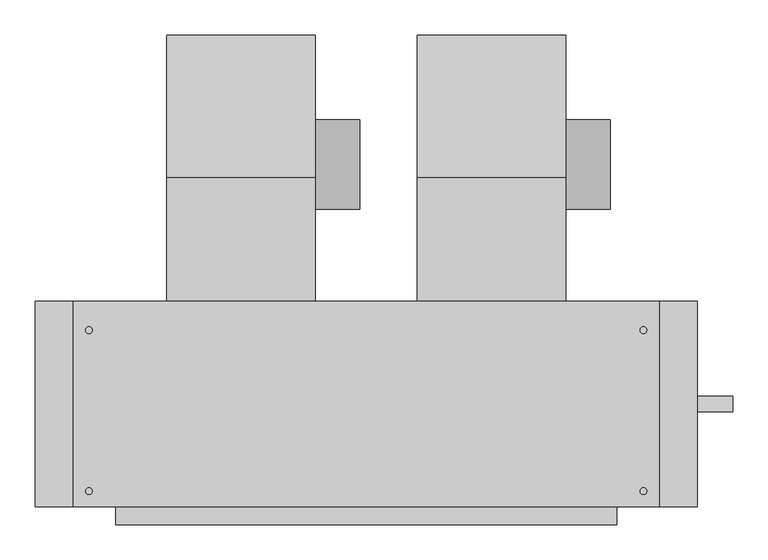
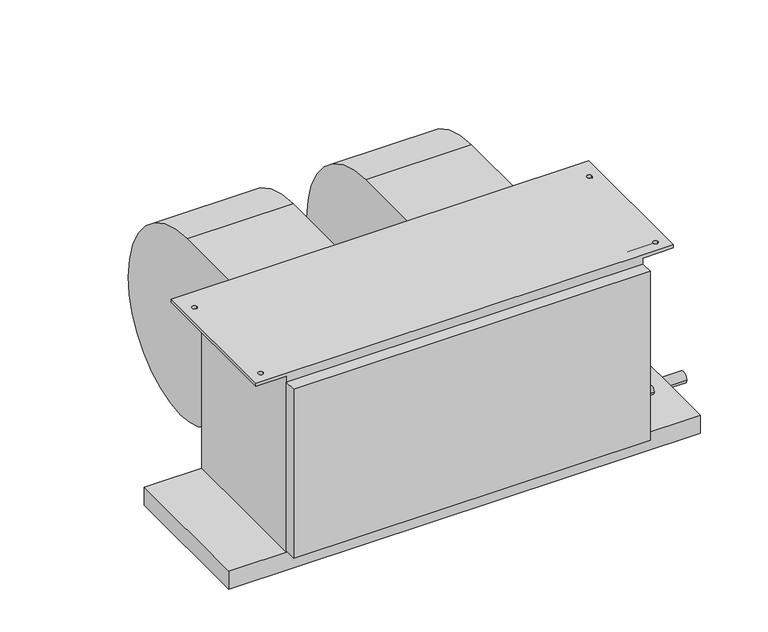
"""IFC4 building model written with IfcOpenShell, lengths in millimetres: proxy geometry, Concealed_High_Capacity_Horizontal_Fan_Coil_Unit_-_42DAA_-_CARRIER_-_4-Pipe_RH_2022 : Size 12 - 277v/60Hz/1Ph - 6/2 Coil."""

from ifc_helpers import new_model, si_unit, point, frame, frame_2d, origin, place, context, project, spatial, polyline, circle_curve, trimmed, segment, composite_curve, outline, extrude, source, transform, mapped, element, save
from ifc_brep_helpers import plane_surface, cylinder_surface, revolved_surface, advanced_brep


def mechanical_equipment_8c316060(model_context):
    return source(origin(), model_context, "Body", "SolidModel", [
        extrude(outline(composite_curve([segment(trimmed(circle_curve(frame_2d((117.8757598, -213.2397468)), 63.5), [point((181.3757598, -213.2397468))], [point((54.3757598, -213.2397468))], False, "CARTESIAN"), True, "CONTINUOUS"), segment(trimmed(circle_curve(frame_2d((117.8757598, -213.2397468)), 63.5), [point((54.3757598, -213.2397468))], [point((181.3757598, -213.2397468))], False, "CARTESIAN"), True, "CONTINUOUS")], self_intersect=False)), frame((207.137, 0.0, 0.0), z_axis=(1.0, 0.0, 0.0), x_axis=(0.0, 1.0, 0.0)), (0.0, 0.0, 1.0), 63.5),
        advanced_brep(
        [(-3.937, 301.3905957, -228.379602), (-3.937, 120.4976, -409.99664), (-3.937, -35.0266, -283.45638), (-3.937, -76.2, -283.45638), (-3.937, -76.2, -25.4), (-3.937, 98.8830093, -25.4), (207.137, 301.3905957, -228.379602), (207.137, 98.8830093, -25.4), (207.137, -76.2, -25.4), (207.137, -76.2, -283.45638), (207.137, -35.0266, -283.45638), (207.137, 120.497599, -409.9957839)],
        [
            (0, 1, circle_curve(frame((-3.937, 120.31726, -228.92258), z_axis=(-1.0, 0.0, 0.0), x_axis=(0.0, -1.0, 0.0)), 181.0741498)),
            (1, 2, circle_curve(frame((-3.937, 120.31726, -251.37364), z_axis=(-1.0, 0.0, 0.0), x_axis=(0.0, -1.0, 0.0)), 158.6222464)),
            (2, 3),
            (3, 4),
            (4, 5),
            (5, 0, circle_curve(frame((-3.937, 97.8662, -228.92258), z_axis=(-1.0, 0.0, 0.0), x_axis=(0.0, -1.0, 0.0)), 203.52512)),
            (6, 7, circle_curve(frame((207.137, 97.8662, -228.92258), z_axis=(1.0, 0.0, 0.0), x_axis=(0.0, -1.0, 0.0)), 203.52512)),
            (7, 8),
            (8, 9),
            (9, 10),
            (10, 11, circle_curve(frame((207.137, 120.31726, -251.37364), z_axis=(1.0, 0.0, 0.0), x_axis=(0.0, -1.0, 0.0)), 158.6222464)),
            (11, 6, circle_curve(frame((207.137, 120.31726, -228.92258), z_axis=(1.0, 0.0, 0.0), x_axis=(0.0, -1.0, 0.0)), 181.0741498)),
            (0, 6),
            (11, 1),
            (10, 2),
            (9, 3),
            (8, 4),
            (7, 5),
        ],
        [
            plane_surface(frame((-3.937, -60.7568898, -228.92258), z_axis=(-1.0, 0.0, 0.0), x_axis=(0.0, 0.0, 1.0))),
            plane_surface(frame((207.137, -60.7568898, -228.92258), z_axis=(1.0, 0.0, 0.0), x_axis=(0.0, 0.0, -1.0))),
            cylinder_surface(frame((207.137, 120.31726, -228.92258), z_axis=(-1.0, 0.0, 0.0), x_axis=(0.0, -1.0, 0.0)), 181.0741498),
            cylinder_surface(frame((207.137, 120.31726, -251.37364), z_axis=(-1.0, 0.0, 0.0), x_axis=(0.0, -1.0, 0.0)), 158.6222464),
            plane_surface(frame((-3.937, -35.0266, -283.45638), z_axis=(0.0, 0.0, -1.0), x_axis=(1.0, 0.0, 0.0))),
            plane_surface(frame((-3.937, -76.2, -283.45638), z_axis=(0.0, -1.0, 0.0), x_axis=(1.0, 0.0, 0.0))),
            plane_surface(frame((-3.937, -76.2, -25.4), z_axis=(0.0, 0.0, 1.0), x_axis=(1.0, 0.0, 0.0))),
            cylinder_surface(frame((207.137, 97.8662, -228.92258), z_axis=(-1.0, 0.0, 0.0), x_axis=(0.0, -1.0, 0.0)), 203.52512),
        ],
        [
            (0, [[1, 2, 3, 4, 5, 6]]),
            (1, [[7, 8, 9, 10, 11, 12]]),
            (2, [[-1, 13, -12, 14]]),
            (3, [[-2, -14, -11, 15]]),
            (4, [[-3, -15, -10, 16]]),
            (5, [[-4, -16, -9, 17]]),
            (6, [[-5, -17, -8, 18]]),
            (7, [[-6, -18, -7, -13]]),
        ],
    ),
        extrude(outline(composite_curve([segment(trimmed(circle_curve(frame_2d((117.8757598, -213.2397468)), 63.5), [point((181.3757598, -213.2397468))], [point((54.3757598, -213.2397468))], False, "CARTESIAN"), True, "CONTINUOUS"), segment(trimmed(circle_curve(frame_2d((117.8757598, -213.2397468)), 63.5), [point((54.3757598, -213.2397468))], [point((181.3757598, -213.2397468))], False, "CARTESIAN"), True, "CONTINUOUS")], self_intersect=False)), frame((562.737, 0.0, 0.0), z_axis=(1.0, 0.0, 0.0), x_axis=(0.0, 1.0, 0.0)), (0.0, 0.0, 1.0), 63.5),
        advanced_brep(
        [(351.663, 301.3905957, -228.379602), (351.663, 120.4976, -409.99664), (351.663, -35.0266, -283.45638), (351.663, -76.2, -283.45638), (351.663, -76.2, -25.4), (351.663, 98.8830093, -25.4), (562.737, 301.3905957, -228.379602), (562.737, 98.8830093, -25.4), (562.737, -76.2, -25.4), (562.737, -76.2, -283.45638), (562.737, -35.0266, -283.45638), (562.737, 120.497599, -409.9957839)],
        [
            (0, 1, circle_curve(frame((351.663, 120.31726, -228.92258), z_axis=(-1.0, 0.0, 0.0), x_axis=(0.0, -1.0, 0.0)), 181.0741498)),
            (1, 2, circle_curve(frame((351.663, 120.31726, -251.37364), z_axis=(-1.0, 0.0, 0.0), x_axis=(0.0, -1.0, 0.0)), 158.6222464)),
            (2, 3),
            (3, 4),
            (4, 5),
            (5, 0, circle_curve(frame((351.663, 97.8662, -228.92258), z_axis=(-1.0, 0.0, 0.0), x_axis=(0.0, -1.0, 0.0)), 203.52512)),
            (6, 7, circle_curve(frame((562.737, 97.8662, -228.92258), z_axis=(1.0, 0.0, 0.0), x_axis=(0.0, -1.0, 0.0)), 203.52512)),
            (7, 8),
            (8, 9),
            (9, 10),
            (10, 11, circle_curve(frame((562.737, 120.31726, -251.37364), z_axis=(1.0, 0.0, 0.0), x_axis=(0.0, -1.0, 0.0)), 158.6222464)),
            (11, 6, circle_curve(frame((562.737, 120.31726, -228.92258), z_axis=(1.0, 0.0, 0.0), x_axis=(0.0, -1.0, 0.0)), 181.0741498)),
            (0, 6),
            (11, 1),
            (10, 2),
            (9, 3),
            (8, 4),
            (7, 5),
        ],
        [
            plane_surface(frame((351.663, -60.7568898, -228.92258), z_axis=(-1.0, 0.0, 0.0), x_axis=(0.0, 0.0, 1.0))),
            plane_surface(frame((562.737, -60.7568898, -228.92258), z_axis=(1.0, 0.0, 0.0), x_axis=(0.0, 0.0, -1.0))),
            cylinder_surface(frame((562.737, 120.31726, -228.92258), z_axis=(-1.0, 0.0, 0.0), x_axis=(0.0, -1.0, 0.0)), 181.0741498),
            cylinder_surface(frame((562.737, 120.31726, -251.37364), z_axis=(-1.0, 0.0, 0.0), x_axis=(0.0, -1.0, 0.0)), 158.6222464),
            plane_surface(frame((351.663, -35.0266, -283.45638), z_axis=(0.0, 0.0, -1.0), x_axis=(1.0, 0.0, 0.0))),
            plane_surface(frame((351.663, -76.2, -283.45638), z_axis=(0.0, -1.0, 0.0), x_axis=(1.0, 0.0, 0.0))),
            plane_surface(frame((351.663, -76.2, -25.4), z_axis=(0.0, 0.0, 1.0), x_axis=(1.0, 0.0, 0.0))),
            cylinder_surface(frame((562.737, 97.8662, -228.92258), z_axis=(-1.0, 0.0, 0.0), x_axis=(0.0, -1.0, 0.0)), 203.52512),
        ],
        [
            (0, [[1, 2, 3, 4, 5, 6]]),
            (1, [[7, 8, 9, 10, 11, 12]]),
            (2, [[-1, 13, -12, 14]]),
            (3, [[-2, -14, -11, 15]]),
            (4, [[-3, -15, -10, 16]]),
            (5, [[-4, -16, -9, 17]]),
            (6, [[-5, -17, -8, 18]]),
            (7, [[-6, -18, -7, -13]]),
        ],
    ),
        extrude(outline(polyline([(749.3, -76.2), (749.3, -368.3), (-190.5, -368.3), (-190.5, -76.2), (749.3, -76.2)])), frame((0.0, 0.0, -415.925), z_axis=(0.0, 0.0, 1.0), x_axis=(1.0, 0.0, 0.0)), (0.0, 0.0, 1.0), 38.1),
        extrude(outline(polyline([(635.0, -393.7), (-76.2, -393.7), (-76.2, -368.3), (635.0, -368.3), (635.0, -393.7)])), frame((0.0, 0.0, -374.65), z_axis=(0.0, 0.0, 1.0), x_axis=(1.0, 0.0, 0.0)), (0.0, 0.0, 1.0), 355.6),
        extrude(outline(composite_curve([segment(trimmed(circle_curve(frame_2d((-222.25, -403.225)), 11.1125), [point((-233.3625, -403.225))], [point((-211.1375, -403.225))], False, "CARTESIAN"), True, "CONTINUOUS"), segment(trimmed(circle_curve(frame_2d((-222.25, -403.225)), 11.1125), [point((-211.1375, -403.225))], [point((-233.3625, -403.225))], False, "CARTESIAN"), True, "CONTINUOUS")], self_intersect=False)), frame((749.3, 0.0, 0.0), z_axis=(1.0, 0.0, 0.0), x_axis=(0.0, 1.0, 0.0)), (0.0, 0.0, 1.0), 50.8),
        extrude(outline(composite_curve([segment(trimmed(circle_curve(frame_2d((-187.325, -122.2375)), 11.1125), [point((-176.2125, -122.2375))], [point((-198.4375, -122.2375))], False, "CARTESIAN"), True, "CONTINUOUS"), segment(trimmed(circle_curve(frame_2d((-187.325, -122.2375)), 11.1125), [point((-198.4375, -122.2375))], [point((-176.2125, -122.2375))], False, "CARTESIAN"), True, "CONTINUOUS")], self_intersect=False)), frame((635.0, 0.0, 0.0), z_axis=(1.0, 0.0, 0.0), x_axis=(0.0, 1.0, 0.0)), (0.0, 0.0, 1.0), 50.8),
        extrude(outline(composite_curve([segment(trimmed(circle_curve(frame_2d((-269.875, -265.1125)), 11.1125), [point((-258.7625, -265.1125))], [point((-280.9875, -265.1125))], False, "CARTESIAN"), True, "CONTINUOUS"), segment(trimmed(circle_curve(frame_2d((-269.875, -265.1125)), 11.1125), [point((-280.9875, -265.1125))], [point((-258.7625, -265.1125))], False, "CARTESIAN"), True, "CONTINUOUS")], self_intersect=False)), frame((635.0, 0.0, 0.0), z_axis=(1.0, 0.0, 0.0), x_axis=(0.0, 1.0, 0.0)), (0.0, 0.0, 1.0), 50.8),
        extrude(outline(composite_curve([segment(trimmed(circle_curve(frame_2d((-311.15, -19.05)), 7.9375), [point((-303.2125, -19.05))], [point((-319.0875, -19.05))], False, "CARTESIAN"), True, "CONTINUOUS"), segment(trimmed(circle_curve(frame_2d((-311.15, -19.05)), 7.9375), [point((-319.0875, -19.05))], [point((-303.2125, -19.05))], False, "CARTESIAN"), True, "CONTINUOUS")], self_intersect=False)), frame((635.0, 0.0, 0.0), z_axis=(1.0, 0.0, 0.0), x_axis=(0.0, 1.0, 0.0)), (0.0, 0.0, 1.0), 50.8),
        extrude(outline(composite_curve([segment(trimmed(circle_curve(frame_2d((-311.15, -336.55)), 7.9375), [point((-303.2125, -336.55))], [point((-319.0875, -336.55))], False, "CARTESIAN"), True, "CONTINUOUS"), segment(trimmed(circle_curve(frame_2d((-311.15, -336.55)), 7.9375), [point((-319.0875, -336.55))], [point((-303.2125, -336.55))], False, "CARTESIAN"), True, "CONTINUOUS")], self_intersect=False)), frame((635.0, 0.0, 0.0), z_axis=(1.0, 0.0, 0.0), x_axis=(0.0, 1.0, 0.0)), (0.0, 0.0, 1.0), 50.8),
        advanced_brep(
        [(635.0, -76.2, -377.825), (635.0, -368.3, -377.825), (-76.2, -368.3, -377.825), (-76.2, -76.2, -377.825), (-76.2, -368.3, -6.35), (-76.2, -76.2, -6.35), (635.0, -76.2, -6.35), (635.0, -368.3, -6.35), (-136.525, -76.2, 0.0), (-136.525, -368.3, 0.0), (695.325, -368.3, 0.0), (695.325, -76.2, 0.0), (-109.5375, -117.475, 0.0), (-119.0625, -117.475, 0.0), (-109.5375, -346.075, 0.0), (-119.0625, -346.075, 0.0), (677.8625, -117.475, 0.0), (668.3375, -117.475, 0.0), (677.8625, -346.075, 0.0), (668.3375, -346.075, 0.0), (-136.525, -76.2, -6.35), (-136.525, -368.3, -6.35), (-119.0625, -117.475, -6.35), (-109.5375, -117.475, -6.35), (-119.0625, -346.075, -6.35), (-109.5375, -346.075, -6.35), (695.325, -76.2, -6.35), (695.325, -368.3, -6.35), (668.3375, -117.475, -6.35), (677.8625, -117.475, -6.35), (668.3375, -346.075, -6.35), (677.8625, -346.075, -6.35)],
        [
            (0, 1),
            (1, 2),
            (2, 3),
            (3, 0),
            (2, 4),
            (4, 5),
            (5, 3),
            (0, 6),
            (6, 7),
            (7, 1),
            (8, 9),
            (9, 10),
            (10, 11),
            (11, 8),
            (12, 13, circle_curve(frame((-114.3, -117.475, 0.0), z_axis=(0.0, 0.0, -1.0), x_axis=(1.0, 0.0, 0.0)), 4.7625)),
            (13, 12, circle_curve(frame((-114.3, -117.475, 0.0), z_axis=(0.0, 0.0, -1.0), x_axis=(1.0, 0.0, 0.0)), 4.7625)),
            (14, 15, circle_curve(frame((-114.3, -346.075, 0.0), z_axis=(0.0, 0.0, -1.0), x_axis=(1.0, 0.0, 0.0)), 4.7625)),
            (15, 14, circle_curve(frame((-114.3, -346.075, 0.0), z_axis=(0.0, 0.0, -1.0), x_axis=(1.0, 0.0, 0.0)), 4.7625)),
            (16, 17, circle_curve(frame((673.1, -117.475, 0.0), z_axis=(0.0, 0.0, -1.0), x_axis=(1.0, 0.0, 0.0)), 4.7625)),
            (17, 16, circle_curve(frame((673.1, -117.475, 0.0), z_axis=(0.0, 0.0, -1.0), x_axis=(1.0, 0.0, 0.0)), 4.7625)),
            (18, 19, circle_curve(frame((673.1, -346.075, 0.0), z_axis=(0.0, 0.0, -1.0), x_axis=(1.0, 0.0, 0.0)), 4.7625)),
            (19, 18, circle_curve(frame((673.1, -346.075, 0.0), z_axis=(0.0, 0.0, -1.0), x_axis=(1.0, 0.0, 0.0)), 4.7625)),
            (20, 5),
            (4, 21),
            (21, 20),
            (22, 23, circle_curve(frame((-114.3, -117.475, -6.35), z_axis=(0.0, 0.0, 1.0), x_axis=(1.0, 0.0, 0.0)), 4.7625)),
            (23, 22, circle_curve(frame((-114.3, -117.475, -6.35), z_axis=(0.0, 0.0, 1.0), x_axis=(1.0, 0.0, 0.0)), 4.7625)),
            (24, 25, circle_curve(frame((-114.3, -346.075, -6.35), z_axis=(0.0, 0.0, 1.0), x_axis=(1.0, 0.0, 0.0)), 4.7625)),
            (25, 24, circle_curve(frame((-114.3, -346.075, -6.35), z_axis=(0.0, 0.0, 1.0), x_axis=(1.0, 0.0, 0.0)), 4.7625)),
            (26, 27),
            (27, 7),
            (6, 26),
            (28, 29, circle_curve(frame((673.1, -117.475, -6.35), z_axis=(0.0, 0.0, 1.0), x_axis=(1.0, 0.0, 0.0)), 4.7625)),
            (29, 28, circle_curve(frame((673.1, -117.475, -6.35), z_axis=(0.0, 0.0, 1.0), x_axis=(1.0, 0.0, 0.0)), 4.7625)),
            (30, 31, circle_curve(frame((673.1, -346.075, -6.35), z_axis=(0.0, 0.0, 1.0), x_axis=(1.0, 0.0, 0.0)), 4.7625)),
            (31, 30, circle_curve(frame((673.1, -346.075, -6.35), z_axis=(0.0, 0.0, 1.0), x_axis=(1.0, 0.0, 0.0)), 4.7625)),
            (8, 20),
            (21, 9),
            (27, 10),
            (11, 26),
            (12, 23),
            (22, 13),
            (14, 25),
            (24, 15),
            (16, 29),
            (28, 17),
            (18, 31),
            (30, 19),
        ],
        [
            plane_surface(frame((-76.2, -76.2, -377.825), z_axis=(0.0, 0.0, -1.0), x_axis=(1.0, 0.0, 0.0))),
            plane_surface(frame((-76.2, -76.2, 0.0), z_axis=(-1.0, 0.0, 0.0), x_axis=(0.0, 0.0, -1.0))),
            plane_surface(frame((635.0, -368.3, 0.0), z_axis=(1.0, 0.0, 0.0), x_axis=(0.0, 0.0, -1.0))),
            plane_surface(frame((-136.525, -76.2, 0.0), z_axis=(0.0, 0.0, 1.0), x_axis=(0.0, -1.0, 0.0))),
            plane_surface(frame((-136.525, -76.2, -6.35), z_axis=(0.0, 0.0, -1.0), x_axis=(0.0, 1.0, 0.0))),
            plane_surface(frame((-136.525, -76.2, 0.0), z_axis=(-1.0, 0.0, 0.0), x_axis=(0.0, 0.0, -1.0))),
            plane_surface(frame((-136.525, -368.3, 0.0), z_axis=(0.0, -1.0, 0.0), x_axis=(0.0, 0.0, -1.0))),
            plane_surface(frame((-76.2, -76.2, 0.0), z_axis=(0.0, 1.0, 0.0), x_axis=(0.0, 0.0, -1.0))),
            plane_surface(frame((695.325, -368.3, 0.0), z_axis=(1.0, 0.0, 0.0), x_axis=(0.0, 0.0, -1.0))),
            revolved_surface(polyline([(-109.5375, -117.475, 0.0), (-109.5375, -117.475, -6.35)]), (-114.3, -117.475, -6.35), (0.0, 0.0, 1.0)),
            revolved_surface(polyline([(-109.5375, -346.075, 0.0), (-109.5375, -346.075, -6.35)]), (-114.3, -346.075, 0.0), (0.0, 0.0, 1.0)),
            revolved_surface(polyline([(677.8625000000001, -117.475, 0.0), (677.8625000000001, -117.475, -6.35)]), (673.1, -117.475, 0.0), (0.0, 0.0, 1.0)),
            revolved_surface(polyline([(677.8625000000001, -346.075, 0.0), (677.8625000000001, -346.075, -6.35)]), (673.1, -346.075, 0.0), (0.0, 0.0, 1.0)),
        ],
        [
            (0, [[1, 2, 3, 4]]),
            (1, [[-3, 5, 6, 7]]),
            (2, [[-1, 8, 9, 10]]),
            (3, [[11, 12, 13, 14], [15, 16], [17, 18], [19, 20], [21, 22]]),
            (4, [[23, -6, 24, 25], [26, 27], [28, 29]]),
            (4, [[30, 31, -9, 32], [33, 34], [35, 36]]),
            (5, [[-11, 37, -25, 38]]),
            (6, [[-12, -38, -24, -5, -2, -10, -31, 39]]),
            (7, [[-14, 40, -32, -8, -4, -7, -23, -37]]),
            (8, [[-13, -39, -30, -40]]),
            (9, [[41, -26, 42, -15]]),
            (9, [[-41, -16, -42, -27]]),
            (10, [[43, -28, 44, -17]]),
            (10, [[-43, -18, -44, -29]]),
            (11, [[45, -33, 46, -19]]),
            (11, [[-45, -20, -46, -34]]),
            (12, [[47, -35, 48, -21]]),
            (12, [[-47, -22, -48, -36]]),
        ],
    ),
    ])


if __name__ == "__main__":
    model = new_model("IFC4")
    model_context = context("Model", 3, world=origin())
    ifc_project = project(units=[si_unit("LENGTHUNIT", "METRE", prefix="MILLI")], contexts=[model_context])
    site = spatial("IfcSite", under=ifc_project)
    building = spatial("IfcBuilding", under=site)
    placement = place(None, origin())
    mechanical_equipment_shape = mechanical_equipment_8c316060(model_context)
    element("IfcBuildingElementProxy", 1, Name="Concealed_High_Capacity_Horizontal_Fan_Coil_Unit_-_42DAA_-_CARRIER_-_4-Pipe_RH_2022 : Size 12 - 277v/60Hz/1Ph - 6/2 Coil", ObjectType="Concealed_High_Capacity_Horizontal_Fan_Coil_Unit_-_42DAA_-_CARRIER_-_4-Pipe_RH_2022 : Size 12 - 277v/60Hz/1Ph - 6/2 Coil", at=placement, inside=building, context=model_context, shape_type="MappedRepresentation", body=[
        mapped(mechanical_equipment_shape, transform((0.0, 0.0, 0.0), x_axis=(1.0, 0.0, 0.0), y_axis=(0.0, 1.0, 0.0), z_axis=(0.0, 0.0, 1.0))),
    ])
    save(model, "model.ifc")
